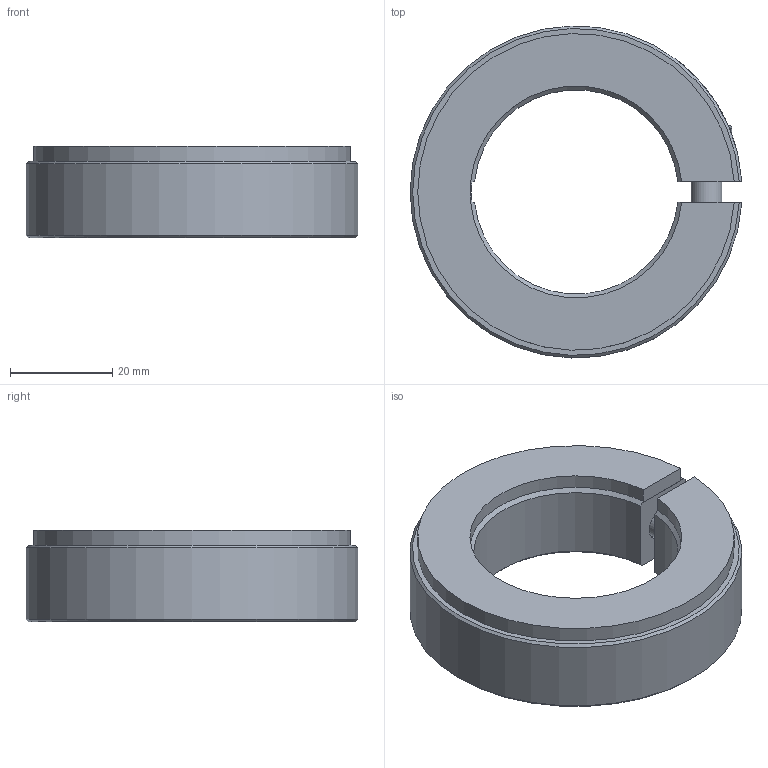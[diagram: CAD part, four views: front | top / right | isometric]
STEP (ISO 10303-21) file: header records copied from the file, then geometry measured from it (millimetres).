
FILE_DESCRIPTION( ( 'STEP AP203' ), '1' );
FILE_NAME( 'C:/Temp/Ganter_Step_05_03_2020/data/3_2/gn7062_3/Semi-split Stainless Steel-Set collar GN 7062.3-65-B40-NI.stp', '2020-03-13T05:40:27', ( 'License CC BY-ND 4.0' ), ( 'CADENAS' ), ' ', 'PARTsolutions', ' ' );
FILE_SCHEMA( ( 'CONFIG_CONTROL_DESIGN' ) );
Length unit declared in the file: millimetre
Products named in the file (1): _Semi-split Stainless Steel-Set collar GN 7062.3-65-B40-NI
Bounding box: 64.94 x 64.97 x 18 mm (x, y, z)
Volume: 33957.2 mm3; surface area: 11019.3 mm2
Topology: 1 solids, 1 shells, 36 faces, 89 edges, 59 vertices
Faces by surface type: plane 20, cylinder 10, cone 5, torus 1
Full cylindrical faces by diameter (mm): 6 x1, 6.4 x1, 10 x1, 10.5 x1
Entity records: 1194 total; most frequent: CARTESIAN_POINT 309, DIRECTION 170, ORIENTED_EDGE 168, EDGE_CURVE 84, AXIS2_PLACEMENT_3D 64, VERTEX_POINT 59, EDGE_LOOP 47, LINE 42
